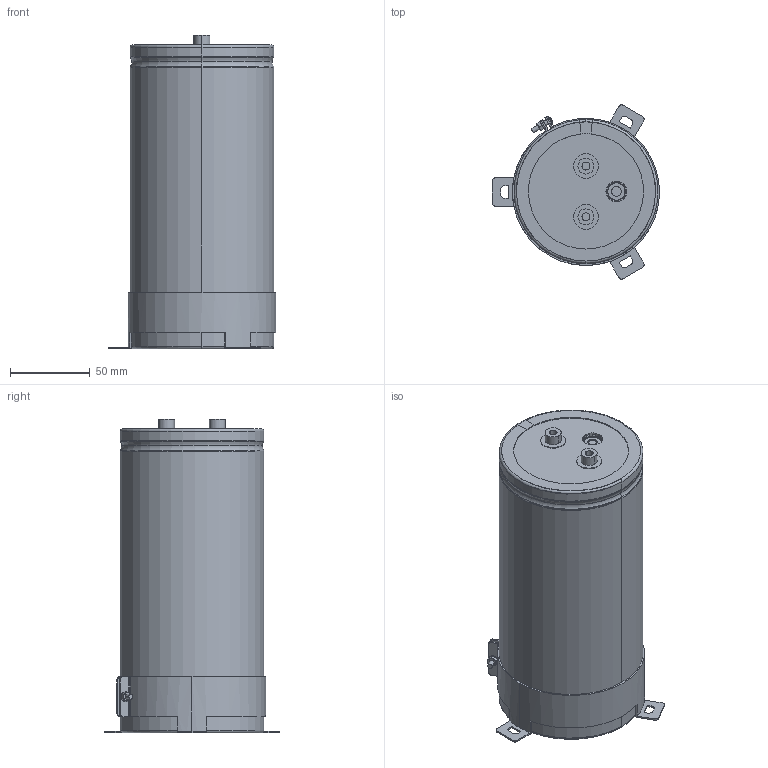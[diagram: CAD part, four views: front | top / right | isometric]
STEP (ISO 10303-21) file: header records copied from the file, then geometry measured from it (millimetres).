
FILE_DESCRIPTION(('STEP AP214'),'1');
FILE_NAME('90x190_Screw.stp','2022-03-14T08:49:21',(' '),(' '),'Spatial InterOp 3D',' ',' ');
FILE_SCHEMA(('AUTOMOTIVE_DESIGN { 1 0 10303 214 1 1 1 1 }'));
Length unit declared in the file: metre
Products named in the file (10): 90x190_Screw; Component1; Component2; Component3; Component4; Component5; Component6; Component7; Component8; Component9
Assembly tree (9 placements, depth 2):
  90x190_Screw
    Component1
    Component2
    Component3
    Component4
    Component5
    Component6
    Component7
    Component8
    Component9
Bounding box: 104.5 x 108.86 x 196 mm (x, y, z)
Volume: 1211288.1 mm3; surface area: 200431.1 mm2
Topology: 9 solids, 9 shells, 352 faces, 873 edges, 551 vertices
Faces by surface type: plane 112, cylinder 110, torus 90, cone 38, sphere 2
Entity records: 11474 total; most frequent: DIRECTION 2126, CARTESIAN_POINT 1918, ORIENTED_EDGE 1746, AXIS2_PLACEMENT_3D 919, EDGE_CURVE 873, VERTEX_POINT 551, CIRCLE 511, EDGE_LOOP 380
